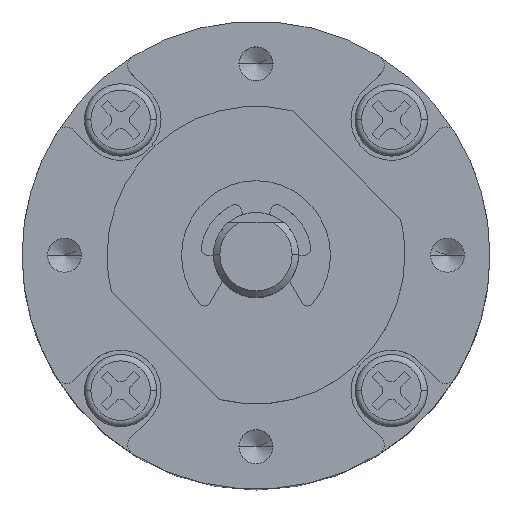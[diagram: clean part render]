
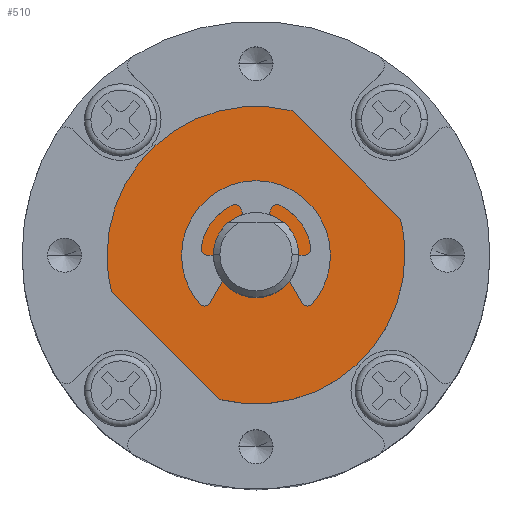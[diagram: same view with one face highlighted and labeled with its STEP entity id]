
A CAD part, top view. The second image highlights one B-rep face of the part: STEP entity #510.
In plain terms, the highlighted planar face has unit normal (0, 0, 1).
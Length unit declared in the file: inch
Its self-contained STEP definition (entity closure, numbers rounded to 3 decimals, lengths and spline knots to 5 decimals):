
#510=ADVANCED_FACE('',(#1291,#1292),#1293,.T.);
#1291=FACE_OUTER_BOUND('',#2369,.T.);
#1292=FACE_BOUND('',#2370,.T.);
#1293=PLANE('',#2371);
#2369=EDGE_LOOP('',(#3873,#3874,#3875,#3876,#3877,#3878));
#2370=EDGE_LOOP('',(#3879,#3880));
#2371=AXIS2_PLACEMENT_3D('',#3881,#3882,#3883);
#3873=ORIENTED_EDGE('',*,*,#6558,.F.);
#3874=ORIENTED_EDGE('',*,*,#6761,.F.);
#3875=ORIENTED_EDGE('',*,*,#6762,.T.);
#3876=ORIENTED_EDGE('',*,*,#6763,.T.);
#3877=ORIENTED_EDGE('',*,*,#6764,.F.);
#3878=ORIENTED_EDGE('',*,*,#6765,.F.);
#3879=ORIENTED_EDGE('',*,*,#6766,.F.);
#3880=ORIENTED_EDGE('',*,*,#6535,.F.);
#3881=CARTESIAN_POINT('',(-0.16451,-0.02742,0.08661));
#3882=DIRECTION('',(0.0,0.0,1.0));
#3883=DIRECTION('',(1.0,-0.0,0.0));
#6535=EDGE_CURVE('',#7901,#7903,#7904,.T.);
#6558=EDGE_CURVE('',#7941,#7937,#7943,.T.);
#6761=EDGE_CURVE('',#8293,#7941,#8294,.T.);
#6762=EDGE_CURVE('',#8293,#8295,#8296,.T.);
#6763=EDGE_CURVE('',#8295,#8297,#8298,.T.);
#6764=EDGE_CURVE('',#8299,#8297,#8300,.T.);
#6765=EDGE_CURVE('',#7937,#8299,#8301,.T.);
#6766=EDGE_CURVE('',#7903,#7901,#8302,.T.);
#7901=VERTEX_POINT('',#9810);
#7903=VERTEX_POINT('',#9813);
#7904=CIRCLE('',#9814,0.07874);
#7937=VERTEX_POINT('',#9855);
#7941=VERTEX_POINT('',#9860);
#7943=CIRCLE('',#9863,0.27559);
#8293=VERTEX_POINT('',#10312);
#8294=LINE('',#10313,#10314);
#8295=VERTEX_POINT('',#10315);
#8296=CIRCLE('',#10316,0.27559);
#8297=VERTEX_POINT('',#10317);
#8298=CIRCLE('',#10318,0.27559);
#8299=VERTEX_POINT('',#10319);
#8300=LINE('',#10320,#10321);
#8301=CIRCLE('',#10322,0.27559);
#8302=CIRCLE('',#10323,0.07874);
#9810=CARTESIAN_POINT('',(-0.08577,-0.02742,0.08661));
#9813=CARTESIAN_POINT('',(-0.24325,-0.02742,0.08661));
#9814=AXIS2_PLACEMENT_3D('',#12065,#12066,#12067);
#9855=CARTESIAN_POINT('',(0.11108,-0.02742,0.08661));
#9860=CARTESIAN_POINT('',(0.10289,0.03924,0.08661));
#9863=AXIS2_PLACEMENT_3D('',#12105,#12106,#12107);
#10312=CARTESIAN_POINT('',(-0.09785,0.23999,0.08661));
#10313=CARTESIAN_POINT('',(-0.09785,0.23999,0.08661));
#10314=VECTOR('',#12430,0.2839);
#10315=CARTESIAN_POINT('',(-0.4401,-0.02742,0.08661));
#10316=AXIS2_PLACEMENT_3D('',#12431,#12432,#12433);
#10317=CARTESIAN_POINT('',(-0.43192,-0.09408,0.08661));
#10318=AXIS2_PLACEMENT_3D('',#12434,#12435,#12436);
#10319=CARTESIAN_POINT('',(-0.23117,-0.29483,0.08661));
#10320=CARTESIAN_POINT('',(-0.23117,-0.29483,0.08661));
#10321=VECTOR('',#12437,0.2839);
#10322=AXIS2_PLACEMENT_3D('',#12438,#12439,#12440);
#10323=AXIS2_PLACEMENT_3D('',#12441,#12442,#12443);
#12065=CARTESIAN_POINT('',(-0.16451,-0.02742,0.08661));
#12066=DIRECTION('',(0.0,0.0,1.0));
#12067=DIRECTION('',(1.0,0.,0.0));
#12105=CARTESIAN_POINT('',(-0.16451,-0.02742,0.08661));
#12106=DIRECTION('',(0.0,0.0,-1.0));
#12107=DIRECTION('',(0.97,0.242,0.0));
#12430=DIRECTION('',(0.707,-0.707,0.0));
#12431=CARTESIAN_POINT('',(-0.16451,-0.02742,0.08661));
#12432=DIRECTION('',(0.0,-0.0,1.0));
#12433=DIRECTION('',(0.242,0.97,0.0));
#12434=CARTESIAN_POINT('',(-0.16451,-0.02742,0.08661));
#12435=DIRECTION('',(0.0,-0.0,1.0));
#12436=DIRECTION('',(0.242,0.97,0.0));
#12437=DIRECTION('',(-0.707,0.707,0.0));
#12438=CARTESIAN_POINT('',(-0.16451,-0.02742,0.08661));
#12439=DIRECTION('',(0.0,0.0,-1.0));
#12440=DIRECTION('',(1.0,0.,0.0));
#12441=CARTESIAN_POINT('',(-0.16451,-0.02742,0.08661));
#12442=DIRECTION('',(0.0,0.0,1.0));
#12443=DIRECTION('',(-1.0,0.,0.0));
